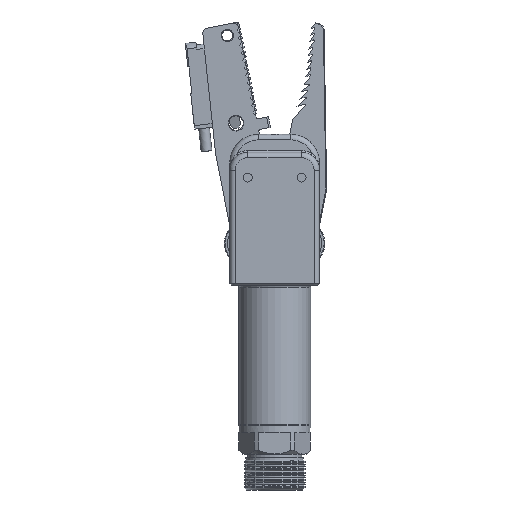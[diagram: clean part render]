
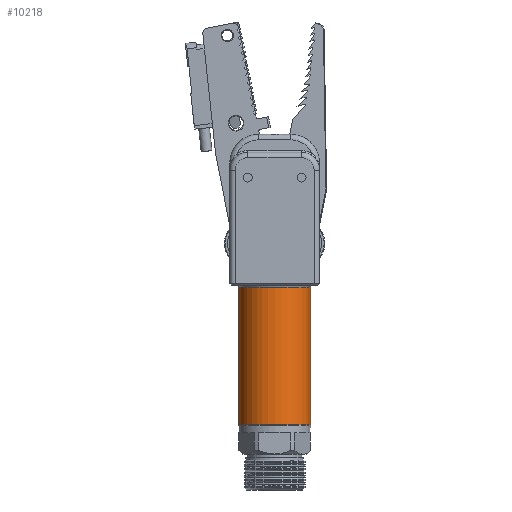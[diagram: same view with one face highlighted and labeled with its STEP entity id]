
A CAD part, left-side view. The second image highlights one B-rep face of the part: STEP entity #10218.
In plain terms, the highlighted cylindrical face has radius 10 mm (diameter 20 mm), a full revolution.
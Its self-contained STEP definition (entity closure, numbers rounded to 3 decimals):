
#9211=CYLINDRICAL_SURFACE('',#21308,10.);
#9463=CIRCLE('',#21300,10.);
#9468=CIRCLE('',#21307,10.);
#10218=ADVANCED_FACE('',(#10837,#10838),#9211,.T.);
#10837=FACE_BOUND('',#11535,.T.);
#10838=FACE_BOUND('',#11536,.T.);
#11535=EDGE_LOOP('',(#14314));
#11536=EDGE_LOOP('',(#14315));
#14314=ORIENTED_EDGE('',*,*,#19441,.T.);
#14315=ORIENTED_EDGE('',*,*,#19428,.T.);
#17512=VERTEX_POINT('',#29088);
#17525=VERTEX_POINT('',#29191);
#19428=EDGE_CURVE('',#17512,#17512,#9463,.T.);
#19441=EDGE_CURVE('',#17525,#17525,#9468,.T.);
#21300=AXIS2_PLACEMENT_3D('',#29087,#24157,#24158);
#21307=AXIS2_PLACEMENT_3D('',#29190,#24173,#24174);
#21308=AXIS2_PLACEMENT_3D('',#29192,#24175,#24176);
#24157=DIRECTION('',(0.,0.,-1.));
#24158=DIRECTION('',(1.,0.,0.));
#24173=DIRECTION('',(0.,0.,1.));
#24174=DIRECTION('',(1.,0.,0.));
#24175=DIRECTION('',(0.,0.,-1.));
#24176=DIRECTION('',(1.,0.,0.));
#29087=CARTESIAN_POINT('',(-0.142,1.293,79.));
#29088=CARTESIAN_POINT('',(9.858,1.293,79.));
#29190=CARTESIAN_POINT('',(-0.142,1.293,40.6));
#29191=CARTESIAN_POINT('',(9.858,1.293,40.6));
#29192=CARTESIAN_POINT('',(-0.142,1.293,79.5));
